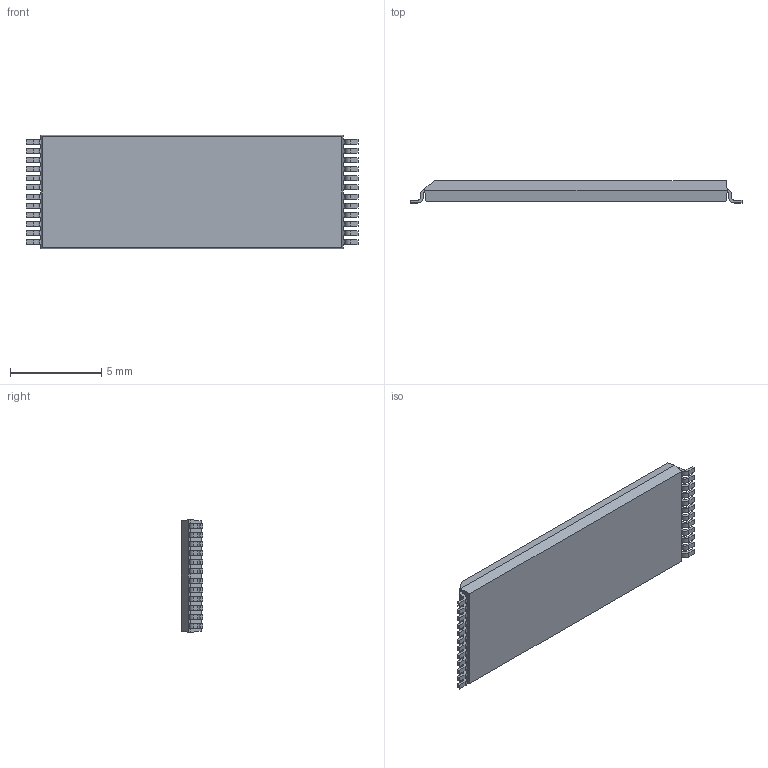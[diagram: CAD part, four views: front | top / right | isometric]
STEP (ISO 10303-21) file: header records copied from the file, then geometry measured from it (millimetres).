
FILE_DESCRIPTION (( 'STEP AP214' ), '1' );
FILE_NAME ('TSSOP50P1800X120-24_MO-142.AC.STEP', '2014-10-29T11:00:53', ( 'Tester2' ), ( '' ), 'SwSTEP 2.0', 'SolidWorks 2012', '' );
FILE_SCHEMA (( 'AUTOMOTIVE_DESIGN' ));
Length unit declared in the file: millimetre
Products named in the file (1): TSSOP50P1800X120-24_MO-142.AC
Bounding box: 18.2 x 1.2 x 6.2 mm (x, y, z)
Volume: 111.9 mm3; surface area: 272.3 mm2
Topology: 1 solids, 1 shells, 278 faces, 821 edges, 546 vertices
Faces by surface type: plane 180, cylinder 98
Entity records: 12240 total; most frequent: CARTESIAN_POINT 1646, ORIENTED_EDGE 1642, DIRECTION 1575, EDGE_CURVE 821, VECTOR 625, LINE 625, VERTEX_POINT 546, AXIS2_PLACEMENT_3D 475
